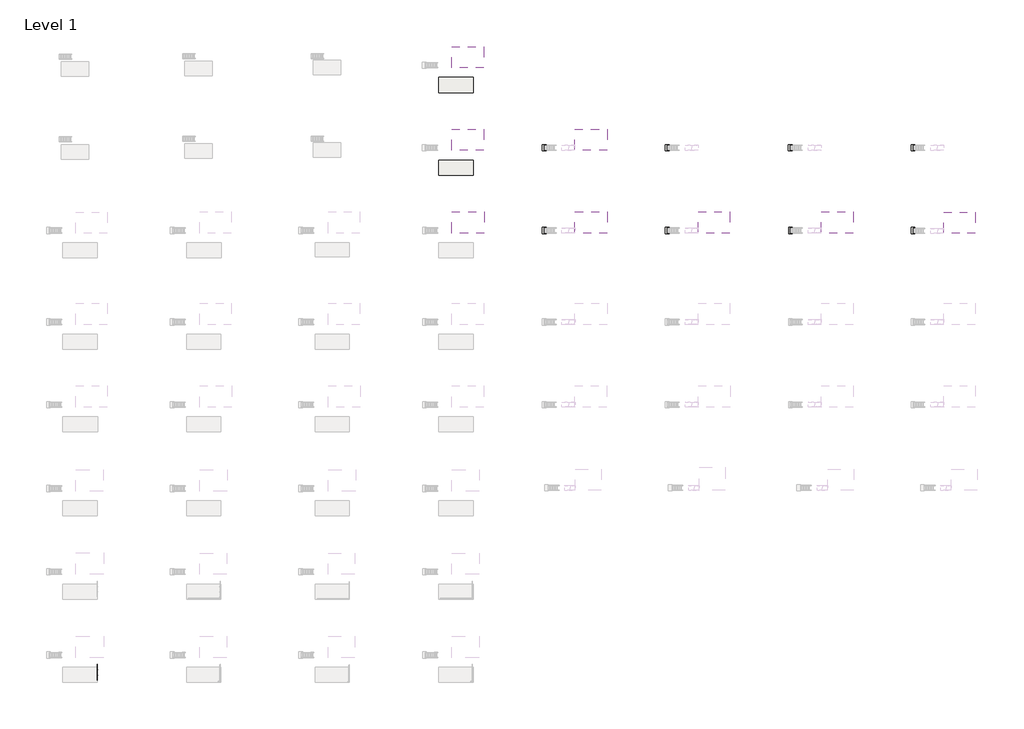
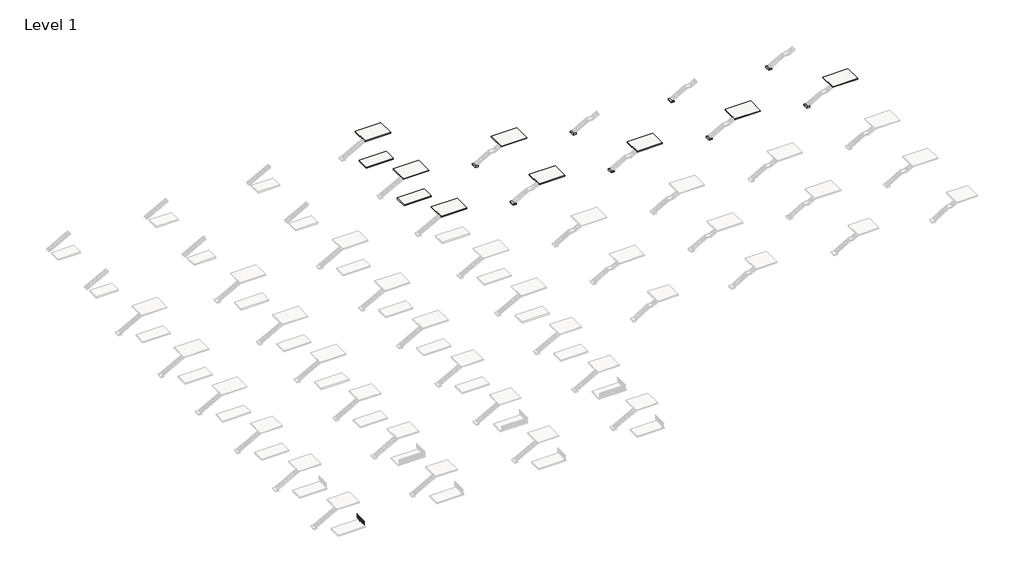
# One storey, part 2 of 21: 18 slabs, 1 railing.
"""IFC4 building model written with IfcOpenShell, lengths in millimetres."""

from ifc_helpers import new_model, si_unit, point, frame, frame_2d, origin, place, context, project, spatial, polyline, circle_curve, ellipse_curve, trimmed, segment, composite_curve, outline, extrude, element, save
from ifc_brep_helpers import plane_surface, cylinder_surface, revolved_surface, advanced_brep

model = new_model("IFC4")

# Units and contexts
model_context = context("Model", 3, world=origin())
ifc_project = project(units=[si_unit("LENGTHUNIT", "METRE", prefix="MILLI")], contexts=[model_context])

# Site, building, storey
site = spatial("IfcSite", under=ifc_project)
building = spatial("IfcBuilding", under=site)
storey = spatial("IfcBuildingStorey", under=building, Name="Level 1", Elevation=0.0)

# Railing
placement = place(None, origin())
element("IfcRailing", 1, ObjectType="VIVA-CIRCA-Multiline-Cable-Fascia Mount-Straight", at=placement, inside=storey, context=model_context, shape_type="SolidModel", body=[
    advanced_brep(
    [(-4853.4752117, -73330.710467, 1054.1), (-4904.2752117, -73330.710467, 1054.1), (-4853.4752117, -70282.710467, 1054.1), (-4904.2752117, -70282.710467, 1054.1), (-4853.4752117, -70181.110467, 1054.1), (-4904.2752117, -70181.110467, 1054.1)],
    [
        (0, 1, circle_curve(frame((-4878.8752117, -73330.710467, 1054.1), z_axis=(0.0, -1.0, 0.0), x_axis=(-1.0, 0.0, 0.0)), 25.4)),
        (1, 0, circle_curve(frame((-4878.8752117, -73330.710467, 1054.1), z_axis=(0.0, -1.0, 0.0), x_axis=(-1.0, 0.0, 0.0)), 25.4)),
        (0, 2),
        (2, 3, circle_curve(frame((-4878.8752117, -70282.710467, 1054.1), z_axis=(0.0, -1.0, 0.0), x_axis=(-1.0, 0.0, 0.0)), 25.4)),
        (3, 1),
        (3, 2, circle_curve(frame((-4878.8752117, -70282.710467, 1054.1), z_axis=(0.0, -1.0, 0.0), x_axis=(-1.0, 0.0, 0.0)), 25.4)),
        (4, 5, circle_curve(frame((-4878.8752117, -70181.110467, 1054.1), z_axis=(0.0, 1.0, 0.0), x_axis=(-1.0, 0.0, 0.0)), 25.4)),
        (5, 4, circle_curve(frame((-4878.8752117, -70181.110467, 1054.1), z_axis=(0.0, 1.0, 0.0), x_axis=(-1.0, 0.0, 0.0)), 25.4)),
        (2, 4),
        (5, 3),
    ],
    [
        plane_surface(frame((-4878.8752117, -73330.710467, 1079.5), z_axis=(0.0, -1.0, 0.0), x_axis=(0.0, 0.0, 1.0))),
        cylinder_surface(frame((-4878.8752117, -73330.710467, 1054.1), z_axis=(0.0, -1.0, 0.0), x_axis=(-1.0, 0.0, 0.0)), 25.4),
        plane_surface(frame((-4878.8752117, -70181.110467, 1079.5), z_axis=(0.0, 1.0, 0.0), x_axis=(0.0, 0.0, 1.0))),
        cylinder_surface(frame((-4878.8752117, -70282.710467, 1054.1), z_axis=(0.0, -1.0, 0.0), x_axis=(-1.0, 0.0, 0.0)), 25.4),
    ],
    [
        (0, [[1, 2]]),
        (1, [[-1, 3, 4, 5]]),
        (1, [[-2, -5, 6, -3]]),
        (2, [[7, 8]]),
        (3, [[-4, 9, -8, 10]]),
        (3, [[-6, -10, -7, -9]]),
    ],
),
    extrude(outline(composite_curve([segment(trimmed(circle_curve(frame_2d((924.7124, -4916.9752117)), 2.3876), [point((924.7124, -4919.3628117))], [point((924.7124, -4914.5876117))], False, "CARTESIAN"), True, "CONTINUOUS"), segment(trimmed(circle_curve(frame_2d((924.7124, -4916.9752117)), 2.3876), [point((924.7124, -4914.5876117))], [point((924.7124, -4919.3628117))], False, "CARTESIAN"), True, "CONTINUOUS")], self_intersect=False)), frame((0.0, -73330.710467, 0.0), z_axis=(0.0, 1.0, 0.0), x_axis=(0.0, 0.0, 1.0)), (0.0, 0.0, 1.0), 3048.0),
    extrude(outline(composite_curve([segment(trimmed(circle_curve(frame_2d((829.4624, -4916.9752117)), 2.3876), [point((829.4624, -4919.3628117))], [point((829.4624, -4914.5876117))], False, "CARTESIAN"), True, "CONTINUOUS"), segment(trimmed(circle_curve(frame_2d((829.4624, -4916.9752117)), 2.3876), [point((829.4624, -4914.5876117))], [point((829.4624, -4919.3628117))], False, "CARTESIAN"), True, "CONTINUOUS")], self_intersect=False)), frame((0.0, -73330.710467, 0.0), z_axis=(0.0, 1.0, 0.0), x_axis=(0.0, 0.0, 1.0)), (0.0, 0.0, 1.0), 3048.0),
    extrude(outline(composite_curve([segment(trimmed(circle_curve(frame_2d((734.2124, -4916.9752117)), 2.3876), [point((734.2124, -4919.3628117))], [point((734.2124, -4914.5876117))], False, "CARTESIAN"), True, "CONTINUOUS"), segment(trimmed(circle_curve(frame_2d((734.2124, -4916.9752117)), 2.3876), [point((734.2124, -4914.5876117))], [point((734.2124, -4919.3628117))], False, "CARTESIAN"), True, "CONTINUOUS")], self_intersect=False)), frame((0.0, -73330.710467, 0.0), z_axis=(0.0, 1.0, 0.0), x_axis=(0.0, 0.0, 1.0)), (0.0, 0.0, 1.0), 3048.0),
    extrude(outline(composite_curve([segment(trimmed(circle_curve(frame_2d((638.9624, -4916.9752117)), 2.3876), [point((638.9624, -4919.3628117))], [point((638.9624, -4914.5876117))], False, "CARTESIAN"), True, "CONTINUOUS"), segment(trimmed(circle_curve(frame_2d((638.9624, -4916.9752117)), 2.3876), [point((638.9624, -4914.5876117))], [point((638.9624, -4919.3628117))], False, "CARTESIAN"), True, "CONTINUOUS")], self_intersect=False)), frame((0.0, -73330.710467, 0.0), z_axis=(0.0, 1.0, 0.0), x_axis=(0.0, 0.0, 1.0)), (0.0, 0.0, 1.0), 3048.0),
    extrude(outline(composite_curve([segment(trimmed(circle_curve(frame_2d((543.7124, -4916.9752117)), 2.3876), [point((543.7124, -4919.3628117))], [point((543.7124, -4914.5876117))], False, "CARTESIAN"), True, "CONTINUOUS"), segment(trimmed(circle_curve(frame_2d((543.7124, -4916.9752117)), 2.3876), [point((543.7124, -4914.5876117))], [point((543.7124, -4919.3628117))], False, "CARTESIAN"), True, "CONTINUOUS")], self_intersect=False)), frame((0.0, -73330.710467, 0.0), z_axis=(0.0, 1.0, 0.0), x_axis=(0.0, 0.0, 1.0)), (0.0, 0.0, 1.0), 3048.0),
    extrude(outline(composite_curve([segment(trimmed(circle_curve(frame_2d((448.4624, -4916.9752117)), 2.3876), [point((448.4624, -4919.3628117))], [point((448.4624, -4914.5876117))], False, "CARTESIAN"), True, "CONTINUOUS"), segment(trimmed(circle_curve(frame_2d((448.4624, -4916.9752117)), 2.3876), [point((448.4624, -4914.5876117))], [point((448.4624, -4919.3628117))], False, "CARTESIAN"), True, "CONTINUOUS")], self_intersect=False)), frame((0.0, -73330.710467, 0.0), z_axis=(0.0, 1.0, 0.0), x_axis=(0.0, 0.0, 1.0)), (0.0, 0.0, 1.0), 3048.0),
    extrude(outline(composite_curve([segment(trimmed(circle_curve(frame_2d((365.9124, -4916.9752117)), 2.3876), [point((365.9124, -4919.3628117))], [point((365.9124, -4914.5876117))], False, "CARTESIAN"), True, "CONTINUOUS"), segment(trimmed(circle_curve(frame_2d((365.9124, -4916.9752117)), 2.3876), [point((365.9124, -4914.5876117))], [point((365.9124, -4919.3628117))], False, "CARTESIAN"), True, "CONTINUOUS")], self_intersect=False)), frame((0.0, -73330.710467, 0.0), z_axis=(0.0, 1.0, 0.0), x_axis=(0.0, 0.0, 1.0)), (0.0, 0.0, 1.0), 3048.0),
    extrude(outline(composite_curve([segment(trimmed(circle_curve(frame_2d((270.6624, -4916.9752117)), 2.3876), [point((270.6624, -4919.3628117))], [point((270.6624, -4914.5876117))], False, "CARTESIAN"), True, "CONTINUOUS"), segment(trimmed(circle_curve(frame_2d((270.6624, -4916.9752117)), 2.3876), [point((270.6624, -4914.5876117))], [point((270.6624, -4919.3628117))], False, "CARTESIAN"), True, "CONTINUOUS")], self_intersect=False)), frame((0.0, -73330.710467, 0.0), z_axis=(0.0, 1.0, 0.0), x_axis=(0.0, 0.0, 1.0)), (0.0, 0.0, 1.0), 3048.0),
    extrude(outline(composite_curve([segment(trimmed(circle_curve(frame_2d((175.4124, -4916.9752117)), 2.3876), [point((175.4124, -4919.3628117))], [point((175.4124, -4914.5876117))], False, "CARTESIAN"), True, "CONTINUOUS"), segment(trimmed(circle_curve(frame_2d((175.4124, -4916.9752117)), 2.3876), [point((175.4124, -4914.5876117))], [point((175.4124, -4919.3628117))], False, "CARTESIAN"), True, "CONTINUOUS")], self_intersect=False)), frame((0.0, -73330.710467, 0.0), z_axis=(0.0, 1.0, 0.0), x_axis=(0.0, 0.0, 1.0)), (0.0, 0.0, 1.0), 3048.0),
    extrude(outline(composite_curve([segment(trimmed(circle_curve(frame_2d((80.1624, -4916.9752117)), 2.3876), [point((80.1624, -4919.3628117))], [point((80.1624, -4914.5876117))], False, "CARTESIAN"), True, "CONTINUOUS"), segment(trimmed(circle_curve(frame_2d((80.1624, -4916.9752117)), 2.3876), [point((80.1624, -4914.5876117))], [point((80.1624, -4919.3628117))], False, "CARTESIAN"), True, "CONTINUOUS")], self_intersect=False)), frame((0.0, -73330.710467, 0.0), z_axis=(0.0, 1.0, 0.0), x_axis=(0.0, 0.0, 1.0)), (0.0, 0.0, 1.0), 3048.0),
    extrude(outline(composite_curve([segment(trimmed(circle_curve(frame_2d((-71297.916717, 76.2)), 12.666458), [point((-71285.2502591, 76.2))], [point((-71310.583175, 76.2))], False, "CARTESIAN"), True, "CONTINUOUS"), segment(trimmed(circle_curve(frame_2d((-71297.916717, 76.2)), 12.666458), [point((-71310.583175, 76.2))], [point((-71285.2502591, 76.2))], False, "CARTESIAN"), True, "CONTINUOUS")], self_intersect=False)), frame((-4929.6752117, 0.0, 0.0), z_axis=(1.0, 0.0, 0.0), x_axis=(0.0, 1.0, 0.0)), (0.0, 0.0, 1.0), 50.8),
    extrude(outline(composite_curve([segment(trimmed(circle_curve(frame_2d((-71297.916717, 170.0388889)), 12.666458), [point((-71285.2502591, 170.0388889))], [point((-71310.583175, 170.0388889))], False, "CARTESIAN"), True, "CONTINUOUS"), segment(trimmed(circle_curve(frame_2d((-71297.916717, 170.0388889)), 12.666458), [point((-71310.583175, 170.0388889))], [point((-71285.2502591, 170.0388889))], False, "CARTESIAN"), True, "CONTINUOUS")], self_intersect=False)), frame((-4929.6752117, 0.0, 0.0), z_axis=(1.0, 0.0, 0.0), x_axis=(0.0, 1.0, 0.0)), (0.0, 0.0, 1.0), 50.8),
    extrude(outline(composite_curve([segment(trimmed(circle_curve(frame_2d((-71297.916717, 263.8777778)), 12.666458), [point((-71285.2502591, 263.8777778))], [point((-71310.583175, 263.8777778))], False, "CARTESIAN"), True, "CONTINUOUS"), segment(trimmed(circle_curve(frame_2d((-71297.916717, 263.8777778)), 12.666458), [point((-71310.583175, 263.8777778))], [point((-71285.2502591, 263.8777778))], False, "CARTESIAN"), True, "CONTINUOUS")], self_intersect=False)), frame((-4929.6752117, 0.0, 0.0), z_axis=(1.0, 0.0, 0.0), x_axis=(0.0, 1.0, 0.0)), (0.0, 0.0, 1.0), 50.8),
    extrude(outline(composite_curve([segment(trimmed(circle_curve(frame_2d((-71297.916717, 357.7166667)), 12.666458), [point((-71285.2502591, 357.7166667))], [point((-71310.583175, 357.7166667))], False, "CARTESIAN"), True, "CONTINUOUS"), segment(trimmed(circle_curve(frame_2d((-71297.916717, 357.7166667)), 12.666458), [point((-71310.583175, 357.7166667))], [point((-71285.2502591, 357.7166667))], False, "CARTESIAN"), True, "CONTINUOUS")], self_intersect=False)), frame((-4929.6752117, 0.0, 0.0), z_axis=(1.0, 0.0, 0.0), x_axis=(0.0, 1.0, 0.0)), (0.0, 0.0, 1.0), 50.8),
    extrude(outline(composite_curve([segment(trimmed(circle_curve(frame_2d((-71297.916717, 451.5555556)), 12.666458), [point((-71285.2502591, 451.5555556))], [point((-71310.583175, 451.5555556))], False, "CARTESIAN"), True, "CONTINUOUS"), segment(trimmed(circle_curve(frame_2d((-71297.916717, 451.5555556)), 12.666458), [point((-71310.583175, 451.5555556))], [point((-71285.2502591, 451.5555556))], False, "CARTESIAN"), True, "CONTINUOUS")], self_intersect=False)), frame((-4929.6752117, 0.0, 0.0), z_axis=(1.0, 0.0, 0.0), x_axis=(0.0, 1.0, 0.0)), (0.0, 0.0, 1.0), 50.8),
    extrude(outline(composite_curve([segment(trimmed(circle_curve(frame_2d((-71297.916717, 545.3944444)), 12.666458), [point((-71285.2502591, 545.3944444))], [point((-71310.583175, 545.3944444))], False, "CARTESIAN"), True, "CONTINUOUS"), segment(trimmed(circle_curve(frame_2d((-71297.916717, 545.3944444)), 12.666458), [point((-71310.583175, 545.3944444))], [point((-71285.2502591, 545.3944444))], False, "CARTESIAN"), True, "CONTINUOUS")], self_intersect=False)), frame((-4929.6752117, 0.0, 0.0), z_axis=(1.0, 0.0, 0.0), x_axis=(0.0, 1.0, 0.0)), (0.0, 0.0, 1.0), 50.8),
    extrude(outline(composite_curve([segment(trimmed(circle_curve(frame_2d((-71297.916717, 639.2333333)), 12.666458), [point((-71285.2502591, 639.2333333))], [point((-71310.583175, 639.2333333))], False, "CARTESIAN"), True, "CONTINUOUS"), segment(trimmed(circle_curve(frame_2d((-71297.916717, 639.2333333)), 12.666458), [point((-71310.583175, 639.2333333))], [point((-71285.2502591, 639.2333333))], False, "CARTESIAN"), True, "CONTINUOUS")], self_intersect=False)), frame((-4929.6752117, 0.0, 0.0), z_axis=(1.0, 0.0, 0.0), x_axis=(0.0, 1.0, 0.0)), (0.0, 0.0, 1.0), 50.8),
    extrude(outline(composite_curve([segment(trimmed(circle_curve(frame_2d((-71297.916717, 733.0722222)), 12.666458), [point((-71285.2502591, 733.0722222))], [point((-71310.583175, 733.0722222))], False, "CARTESIAN"), True, "CONTINUOUS"), segment(trimmed(circle_curve(frame_2d((-71297.916717, 733.0722222)), 12.666458), [point((-71310.583175, 733.0722222))], [point((-71285.2502591, 733.0722222))], False, "CARTESIAN"), True, "CONTINUOUS")], self_intersect=False)), frame((-4929.6752117, 0.0, 0.0), z_axis=(1.0, 0.0, 0.0), x_axis=(0.0, 1.0, 0.0)), (0.0, 0.0, 1.0), 50.8),
    extrude(outline(composite_curve([segment(trimmed(circle_curve(frame_2d((-71297.916717, 920.75)), 12.666458), [point((-71285.2502591, 920.75))], [point((-71310.583175, 920.75))], False, "CARTESIAN"), True, "CONTINUOUS"), segment(trimmed(circle_curve(frame_2d((-71297.916717, 920.75)), 12.666458), [point((-71310.583175, 920.75))], [point((-71285.2502591, 920.75))], False, "CARTESIAN"), True, "CONTINUOUS")], self_intersect=False)), frame((-4929.6752117, 0.0, 0.0), z_axis=(1.0, 0.0, 0.0), x_axis=(0.0, 1.0, 0.0)), (0.0, 0.0, 1.0), 50.8),
    extrude(outline(composite_curve([segment(trimmed(circle_curve(frame_2d((-71297.916717, 826.9111111)), 12.666458), [point((-71285.2502591, 826.9111111))], [point((-71310.583175, 826.9111111))], False, "CARTESIAN"), True, "CONTINUOUS"), segment(trimmed(circle_curve(frame_2d((-71297.916717, 826.9111111)), 12.666458), [point((-71310.583175, 826.9111111))], [point((-71285.2502591, 826.9111111))], False, "CARTESIAN"), True, "CONTINUOUS")], self_intersect=False)), frame((-4929.6752117, 0.0, 0.0), z_axis=(1.0, 0.0, 0.0), x_axis=(0.0, 1.0, 0.0)), (0.0, 0.0, 1.0), 50.8),
    extrude(outline(composite_curve([segment(trimmed(circle_curve(frame_2d((1055.4254922, -4878.9719401)), 25.4345159), [point((1033.3106679, -4866.4081372))], [point((1033.2157471, -4891.3671739))], True, "CARTESIAN"), True, "CONTINUOUS"), segment(trimmed(circle_curve(frame_2d((1030.7132623, -4892.611827)), 2.7949225), [point((1033.2157471, -4891.3671739))], [point((1028.3406769, -4894.089132))], False, "CARTESIAN"), True, "CONTINUOUS"), segment(trimmed(circle_curve(frame_2d((1056.1881188, -4878.838477)), 31.75), [point((1028.3406769, -4894.089132))], [point((1028.9214354, -4862.5722398))], False, "CARTESIAN"), True, "CONTINUOUS"), segment(trimmed(circle_curve(frame_2d((1030.7923545, -4864.8605795)), 2.9558141), [point((1028.9214354, -4862.5722398))], [point((1033.3106679, -4866.4081372))], False, "CARTESIAN"), True, "CONTINUOUS")], self_intersect=False)), frame((0.0, -71343.550992, 0.0), z_axis=(0.0, 1.0, 0.0), x_axis=(0.0, 0.0, 1.0)), (0.0, 0.0, 1.0), 90.4748),
    extrude(outline(composite_curve([segment(trimmed(circle_curve(frame_2d((-71271.2456772, 1010.282776)), 14.3679149), [point((-71271.2456772, 1024.6506908))], [point((-71285.613592, 1010.282776))], True, "CARTESIAN"), True, "CONTINUOUS"), segment(trimmed(circle_curve(frame_2d((-71298.313592, 1010.282776)), 12.7), [point((-71285.613592, 1010.282776))], [point((-71311.013592, 1010.282776))], False, "CARTESIAN"), True, "CONTINUOUS"), segment(trimmed(circle_curve(frame_2d((-71325.3815069, 1010.282776)), 14.3679149), [point((-71311.013592, 1010.282776))], [point((-71325.3815069, 1024.6506908))], True, "CARTESIAN"), True, "CONTINUOUS"), segment(polyline([(-71325.3815069, 1024.6506908), (-71271.2456772, 1024.6506908)]), True, "CONTINUOUS")], self_intersect=False)), frame((-4881.4152117, 0.0, 0.0), z_axis=(1.0, 0.0, 0.0), x_axis=(0.0, 1.0, 0.0)), (0.0, 0.0, 1.0), 5.08),
    extrude(outline(polyline([(-4933.3882474, -71234.813592), (-4923.4060474, -71234.813592), (-4923.4060474, -71361.813592), (-4933.3882474, -71361.813592), (-4933.3882474, -71234.813592)])), frame((0.0, 0.0, -209.55), z_axis=(0.0, 0.0, 1.0), x_axis=(1.0, 0.0, 0.0)), (0.0, 0.0, 1.0), 152.4),
    extrude(outline(composite_curve([segment(polyline([(-4923.4060474, -71330.063592), (-4923.4060474, -71266.563592), (-4869.6790302, -71266.563592)]), True, "CONTINUOUS"), segment(trimmed(circle_curve(frame_2d((-4878.8752117, -71298.313592)), 33.0549883), [point((-4869.6790302, -71266.563592))], [point((-4869.6790302, -71330.063592))], False, "CARTESIAN"), True, "CONTINUOUS"), segment(polyline([(-4869.6790302, -71330.063592), (-4923.4060474, -71330.063592)]), True, "CONTINUOUS")], self_intersect=False)), frame((0.0, 0.0, -182.5625), z_axis=(0.0, 0.0, 1.0), x_axis=(1.0, 0.0, 0.0)), (0.0, 0.0, 1.0), 9.525),
    extrude(outline(composite_curve([segment(polyline([(-4923.4060474, -71330.063592), (-4923.4060474, -71266.563592), (-4869.6790302, -71266.563592)]), True, "CONTINUOUS"), segment(trimmed(circle_curve(frame_2d((-4878.8752117, -71298.313592)), 33.0549883), [point((-4869.6790302, -71266.563592))], [point((-4869.6790302, -71330.063592))], False, "CARTESIAN"), True, "CONTINUOUS"), segment(polyline([(-4869.6790302, -71330.063592), (-4923.4060474, -71330.063592)]), True, "CONTINUOUS")], self_intersect=False)), frame((0.0, 0.0, -93.6625), z_axis=(0.0, 0.0, 1.0), x_axis=(1.0, 0.0, 0.0)), (0.0, 0.0, 1.0), 9.525),
    extrude(outline(composite_curve([segment(trimmed(circle_curve(frame_2d((-71237.353592, -59.69)), 2.54), [point((-71237.353592, -57.15))], [point((-71234.813592, -59.69))], False, "CARTESIAN"), True, "CONTINUOUS"), segment(polyline([(-71234.813592, -59.69), (-71234.813592, -207.01)]), True, "CONTINUOUS"), segment(trimmed(circle_curve(frame_2d((-71237.353592, -207.01)), 2.54), [point((-71234.813592, -207.01))], [point((-71237.353592, -209.55))], False, "CARTESIAN"), True, "CONTINUOUS"), segment(polyline([(-71237.353592, -209.55), (-71359.273592, -209.55)]), True, "CONTINUOUS"), segment(trimmed(circle_curve(frame_2d((-71359.273592, -207.01)), 2.54), [point((-71359.273592, -209.55))], [point((-71361.813592, -207.01))], False, "CARTESIAN"), True, "CONTINUOUS"), segment(polyline([(-71361.813592, -207.01), (-71361.813592, -59.69)]), True, "CONTINUOUS"), segment(trimmed(circle_curve(frame_2d((-71359.273592, -59.69)), 2.54), [point((-71361.813592, -59.69))], [point((-71359.273592, -57.15))], False, "CARTESIAN"), True, "CONTINUOUS"), segment(polyline([(-71359.273592, -57.15), (-71237.353592, -57.15)]), True, "CONTINUOUS")], self_intersect=False), holes=[composite_curve([segment(trimmed(circle_curve(frame_2d((-71342.763592, -76.2)), 5.55625), [point((-71337.207342, -76.2))], [point((-71348.319842, -76.2))], True, "CARTESIAN"), True, "CONTINUOUS"), segment(trimmed(circle_curve(frame_2d((-71342.763592, -76.2)), 5.55625), [point((-71348.319842, -76.2))], [point((-71337.207342, -76.2))], True, "CARTESIAN"), True, "CONTINUOUS")], self_intersect=False), composite_curve([segment(trimmed(circle_curve(frame_2d((-71253.863592, -76.2)), 5.55625), [point((-71248.307342, -76.2))], [point((-71259.419842, -76.2))], True, "CARTESIAN"), True, "CONTINUOUS"), segment(trimmed(circle_curve(frame_2d((-71253.863592, -76.2)), 5.55625), [point((-71259.419842, -76.2))], [point((-71248.307342, -76.2))], True, "CARTESIAN"), True, "CONTINUOUS")], self_intersect=False), composite_curve([segment(trimmed(circle_curve(frame_2d((-71253.863592, -190.5)), 5.55625), [point((-71248.307342, -190.5))], [point((-71259.419842, -190.5))], True, "CARTESIAN"), True, "CONTINUOUS"), segment(trimmed(circle_curve(frame_2d((-71253.863592, -190.5)), 5.55625), [point((-71259.419842, -190.5))], [point((-71248.307342, -190.5))], True, "CARTESIAN"), True, "CONTINUOUS")], self_intersect=False), composite_curve([segment(trimmed(circle_curve(frame_2d((-71342.763592, -190.5)), 5.55625), [point((-71337.207342, -190.5))], [point((-71348.319842, -190.5))], True, "CARTESIAN"), True, "CONTINUOUS"), segment(trimmed(circle_curve(frame_2d((-71342.763592, -190.5)), 5.55625), [point((-71348.319842, -190.5))], [point((-71337.207342, -190.5))], True, "CARTESIAN"), True, "CONTINUOUS")], self_intersect=False)]), frame((-4923.4060474, 0.0, 0.0), z_axis=(1.0, 0.0, 0.0), x_axis=(0.0, 1.0, 0.0)), (0.0, 0.0, 1.0), 9.9822),
    advanced_brep(
    [(-4853.4758139, -71298.313592, 941.1347854), (-4904.2746095, -71298.313592, 941.1347854), (-4904.2746095, -71298.313592, -173.0502), (-4853.4758139, -71298.313592, -173.0502), (-4866.1372432, -71298.313592, 979.3486202), (-4891.6131803, -71298.313592, 979.3486202), (-4866.1372432, -71298.313592, 1008.5779599), (-4891.6131803, -71298.313592, 1008.5779599), (-4878.8752117, -71298.313592, 1015.238668), (-4878.8752117, -71298.313592, -173.0502)],
    [
        (0, 1, circle_curve(frame((-4878.8752117, -71298.313592, 941.1347854), z_axis=(0.0, 0.0, -1.0), x_axis=(-1.0, 0.0, 0.0)), 25.3993978)),
        (1, 2),
        (2, 3, circle_curve(frame((-4878.8752117, -71298.313592, -173.0502), z_axis=(0.0, 0.0, 1.0), x_axis=(-1.0, 0.0, 0.0)), 25.3993978)),
        (3, 0),
        (1, 0, circle_curve(frame((-4878.8752117, -71298.313592, 941.1347854), z_axis=(0.0, 0.0, -1.0), x_axis=(-1.0, 0.0, 0.0)), 25.3993978)),
        (3, 2, circle_curve(frame((-4878.8752117, -71298.313592, -173.0502), z_axis=(0.0, 0.0, 1.0), x_axis=(-1.0, 0.0, 0.0)), 25.3993978)),
        (4, 5, circle_curve(frame((-4878.8752117, -71298.313592, 979.3486202), z_axis=(0.0, 0.0, -1.0), x_axis=(-1.0, 0.0, 0.0)), 12.7379685)),
        (5, 1, circle_curve(frame((-4955.6110486, -71298.313592, 979.3486202), z_axis=(0.0, 1.0, 0.0), x_axis=(-1.0, 0.0, 0.0)), 63.9978683)),
        (0, 4, circle_curve(frame((-4802.1393749, -71298.313592, 979.3486202), z_axis=(0.0, 1.0, 0.0), x_axis=(1.0, 0.0, 0.0)), 63.9978683)),
        (5, 4, circle_curve(frame((-4878.8752117, -71298.313592, 979.3486202), z_axis=(0.0, 0.0, -1.0), x_axis=(-1.0, 0.0, 0.0)), 12.7379685)),
        (6, 7, circle_curve(frame((-4878.8752117, -71298.313592, 1008.5779599), z_axis=(0.0, 0.0, -1.0), x_axis=(-1.0, 0.0, 0.0)), 12.7379685)),
        (7, 5),
        (4, 6),
        (7, 6, circle_curve(frame((-4878.8752117, -71298.313592, 1008.5779599), z_axis=(0.0, 0.0, -1.0), x_axis=(-1.0, 0.0, 0.0)), 12.7379685)),
        (8, 7, circle_curve(frame((-4878.8752117, -71298.313592, 999.7282394), z_axis=(0.0, -1.0, 0.0), x_axis=(-1.0, 0.0, 0.0)), 15.5104286)),
        (6, 8, circle_curve(frame((-4878.8752117, -71298.313592, 999.7282394), z_axis=(0.0, -1.0, 0.0), x_axis=(1.0, 0.0, 0.0)), 15.5104286)),
        (2, 9),
        (9, 3),
    ],
    [
        cylinder_surface(frame((-4878.8752117, -71298.313592, 1104.9), z_axis=(0.0, 0.0, 1.0), x_axis=(-1.0, 0.0, 0.0)), 25.3993978),
        revolved_surface(trimmed(ellipse_curve(frame((-4955.6110486, -71298.313592, 979.3486202), z_axis=(0.0, -1.0, 0.0), x_axis=(-1.0, 0.0, 0.0)), 63.9978683, 63.9978683), [point((-4904.2746095, -71298.313592, 941.1347854))], [point((-4891.6131803, -71298.313592, 979.3486202))], True, "CARTESIAN"), (-4878.8752117, -71298.313592, 1104.9), (0.0, 0.0, 1.0)),
        cylinder_surface(frame((-4878.8752117, -71298.313592, 1104.9), z_axis=(0.0, 0.0, 1.0), x_axis=(-1.0, 0.0, 0.0)), 12.7379685),
        revolved_surface(trimmed(ellipse_curve(frame((-4878.8752117, -71298.313592, 999.7282394), z_axis=(0.0, 1.0, 0.0), x_axis=(-1.0, 0.0, 0.0)), 15.5104286, 15.5104286), [point((-4891.6131803, -71298.313592, 1008.5779599))], [point((-4878.8752117, -71298.313592, 1015.238668))], True, "CARTESIAN"), (-4878.8752117, -71298.313592, 1104.9), (0.0, 0.0, 1.0)),
        plane_surface(frame((-4878.8752117, -71298.313592, -173.0502), z_axis=(0.0, 0.0, -1.0), x_axis=(-1.0, 0.0, 0.0))),
    ],
    [
        (0, [[1, 2, 3, 4]]),
        (0, [[5, -4, 6, -2]]),
        (1, [[7, 8, -1, 9]]),
        (1, [[10, -9, -5, -8]]),
        (2, [[11, 12, -7, 13]]),
        (2, [[14, -13, -10, -12]]),
        (3, [[15, -11, 16]]),
        (3, [[-16, -14, -15]]),
        (4, [[-3, 17, 18]]),
        (4, [[-6, -18, -17]]),
    ],
),
    extrude(outline(composite_curve([segment(trimmed(circle_curve(frame_2d((-72313.916717, 76.2)), 12.666458), [point((-72301.2502591, 76.2))], [point((-72326.583175, 76.2))], False, "CARTESIAN"), True, "CONTINUOUS"), segment(trimmed(circle_curve(frame_2d((-72313.916717, 76.2)), 12.666458), [point((-72326.583175, 76.2))], [point((-72301.2502591, 76.2))], False, "CARTESIAN"), True, "CONTINUOUS")], self_intersect=False)), frame((-4929.6752117, 0.0, 0.0), z_axis=(1.0, 0.0, 0.0), x_axis=(0.0, 1.0, 0.0)), (0.0, 0.0, 1.0), 50.8),
    extrude(outline(composite_curve([segment(trimmed(circle_curve(frame_2d((-72313.916717, 170.0388889)), 12.666458), [point((-72301.2502591, 170.0388889))], [point((-72326.583175, 170.0388889))], False, "CARTESIAN"), True, "CONTINUOUS"), segment(trimmed(circle_curve(frame_2d((-72313.916717, 170.0388889)), 12.666458), [point((-72326.583175, 170.0388889))], [point((-72301.2502591, 170.0388889))], False, "CARTESIAN"), True, "CONTINUOUS")], self_intersect=False)), frame((-4929.6752117, 0.0, 0.0), z_axis=(1.0, 0.0, 0.0), x_axis=(0.0, 1.0, 0.0)), (0.0, 0.0, 1.0), 50.8),
    extrude(outline(composite_curve([segment(trimmed(circle_curve(frame_2d((-72313.916717, 263.8777778)), 12.666458), [point((-72301.2502591, 263.8777778))], [point((-72326.583175, 263.8777778))], False, "CARTESIAN"), True, "CONTINUOUS"), segment(trimmed(circle_curve(frame_2d((-72313.916717, 263.8777778)), 12.666458), [point((-72326.583175, 263.8777778))], [point((-72301.2502591, 263.8777778))], False, "CARTESIAN"), True, "CONTINUOUS")], self_intersect=False)), frame((-4929.6752117, 0.0, 0.0), z_axis=(1.0, 0.0, 0.0), x_axis=(0.0, 1.0, 0.0)), (0.0, 0.0, 1.0), 50.8),
    extrude(outline(composite_curve([segment(trimmed(circle_curve(frame_2d((-72313.916717, 357.7166667)), 12.666458), [point((-72301.2502591, 357.7166667))], [point((-72326.583175, 357.7166667))], False, "CARTESIAN"), True, "CONTINUOUS"), segment(trimmed(circle_curve(frame_2d((-72313.916717, 357.7166667)), 12.666458), [point((-72326.583175, 357.7166667))], [point((-72301.2502591, 357.7166667))], False, "CARTESIAN"), True, "CONTINUOUS")], self_intersect=False)), frame((-4929.6752117, 0.0, 0.0), z_axis=(1.0, 0.0, 0.0), x_axis=(0.0, 1.0, 0.0)), (0.0, 0.0, 1.0), 50.8),
    extrude(outline(composite_curve([segment(trimmed(circle_curve(frame_2d((-72313.916717, 451.5555556)), 12.666458), [point((-72301.2502591, 451.5555556))], [point((-72326.583175, 451.5555556))], False, "CARTESIAN"), True, "CONTINUOUS"), segment(trimmed(circle_curve(frame_2d((-72313.916717, 451.5555556)), 12.666458), [point((-72326.583175, 451.5555556))], [point((-72301.2502591, 451.5555556))], False, "CARTESIAN"), True, "CONTINUOUS")], self_intersect=False)), frame((-4929.6752117, 0.0, 0.0), z_axis=(1.0, 0.0, 0.0), x_axis=(0.0, 1.0, 0.0)), (0.0, 0.0, 1.0), 50.8),
    extrude(outline(composite_curve([segment(trimmed(circle_curve(frame_2d((-72313.916717, 545.3944444)), 12.666458), [point((-72301.2502591, 545.3944444))], [point((-72326.583175, 545.3944444))], False, "CARTESIAN"), True, "CONTINUOUS"), segment(trimmed(circle_curve(frame_2d((-72313.916717, 545.3944444)), 12.666458), [point((-72326.583175, 545.3944444))], [point((-72301.2502591, 545.3944444))], False, "CARTESIAN"), True, "CONTINUOUS")], self_intersect=False)), frame((-4929.6752117, 0.0, 0.0), z_axis=(1.0, 0.0, 0.0), x_axis=(0.0, 1.0, 0.0)), (0.0, 0.0, 1.0), 50.8),
    extrude(outline(composite_curve([segment(trimmed(circle_curve(frame_2d((-72313.916717, 639.2333333)), 12.666458), [point((-72301.2502591, 639.2333333))], [point((-72326.583175, 639.2333333))], False, "CARTESIAN"), True, "CONTINUOUS"), segment(trimmed(circle_curve(frame_2d((-72313.916717, 639.2333333)), 12.666458), [point((-72326.583175, 639.2333333))], [point((-72301.2502591, 639.2333333))], False, "CARTESIAN"), True, "CONTINUOUS")], self_intersect=False)), frame((-4929.6752117, 0.0, 0.0), z_axis=(1.0, 0.0, 0.0), x_axis=(0.0, 1.0, 0.0)), (0.0, 0.0, 1.0), 50.8),
    extrude(outline(composite_curve([segment(trimmed(circle_curve(frame_2d((-72313.916717, 733.0722222)), 12.666458), [point((-72301.2502591, 733.0722222))], [point((-72326.583175, 733.0722222))], False, "CARTESIAN"), True, "CONTINUOUS"), segment(trimmed(circle_curve(frame_2d((-72313.916717, 733.0722222)), 12.666458), [point((-72326.583175, 733.0722222))], [point((-72301.2502591, 733.0722222))], False, "CARTESIAN"), True, "CONTINUOUS")], self_intersect=False)), frame((-4929.6752117, 0.0, 0.0), z_axis=(1.0, 0.0, 0.0), x_axis=(0.0, 1.0, 0.0)), (0.0, 0.0, 1.0), 50.8),
    extrude(outline(composite_curve([segment(trimmed(circle_curve(frame_2d((-72313.916717, 920.75)), 12.666458), [point((-72301.2502591, 920.75))], [point((-72326.583175, 920.75))], False, "CARTESIAN"), True, "CONTINUOUS"), segment(trimmed(circle_curve(frame_2d((-72313.916717, 920.75)), 12.666458), [point((-72326.583175, 920.75))], [point((-72301.2502591, 920.75))], False, "CARTESIAN"), True, "CONTINUOUS")], self_intersect=False)), frame((-4929.6752117, 0.0, 0.0), z_axis=(1.0, 0.0, 0.0), x_axis=(0.0, 1.0, 0.0)), (0.0, 0.0, 1.0), 50.8),
    extrude(outline(composite_curve([segment(trimmed(circle_curve(frame_2d((-72313.916717, 826.9111111)), 12.666458), [point((-72301.2502591, 826.9111111))], [point((-72326.583175, 826.9111111))], False, "CARTESIAN"), True, "CONTINUOUS"), segment(trimmed(circle_curve(frame_2d((-72313.916717, 826.9111111)), 12.666458), [point((-72326.583175, 826.9111111))], [point((-72301.2502591, 826.9111111))], False, "CARTESIAN"), True, "CONTINUOUS")], self_intersect=False)), frame((-4929.6752117, 0.0, 0.0), z_axis=(1.0, 0.0, 0.0), x_axis=(0.0, 1.0, 0.0)), (0.0, 0.0, 1.0), 50.8),
    extrude(outline(composite_curve([segment(trimmed(circle_curve(frame_2d((1055.4254922, -4878.9719401)), 25.4345159), [point((1033.3106679, -4866.4081372))], [point((1033.2157471, -4891.3671739))], True, "CARTESIAN"), True, "CONTINUOUS"), segment(trimmed(circle_curve(frame_2d((1030.7132623, -4892.611827)), 2.7949225), [point((1033.2157471, -4891.3671739))], [point((1028.3406769, -4894.089132))], False, "CARTESIAN"), True, "CONTINUOUS"), segment(trimmed(circle_curve(frame_2d((1056.1881188, -4878.838477)), 31.75), [point((1028.3406769, -4894.089132))], [point((1028.9214354, -4862.5722398))], False, "CARTESIAN"), True, "CONTINUOUS"), segment(trimmed(circle_curve(frame_2d((1030.7923545, -4864.8605795)), 2.9558141), [point((1028.9214354, -4862.5722398))], [point((1033.3106679, -4866.4081372))], False, "CARTESIAN"), True, "CONTINUOUS")], self_intersect=False)), frame((0.0, -72359.550992, 0.0), z_axis=(0.0, 1.0, 0.0), x_axis=(0.0, 0.0, 1.0)), (0.0, 0.0, 1.0), 90.4748),
    extrude(outline(composite_curve([segment(trimmed(circle_curve(frame_2d((-72287.2456772, 1010.282776)), 14.3679149), [point((-72287.2456772, 1024.6506908))], [point((-72301.613592, 1010.282776))], True, "CARTESIAN"), True, "CONTINUOUS"), segment(trimmed(circle_curve(frame_2d((-72314.313592, 1010.282776)), 12.7), [point((-72301.613592, 1010.282776))], [point((-72327.013592, 1010.282776))], False, "CARTESIAN"), True, "CONTINUOUS"), segment(trimmed(circle_curve(frame_2d((-72341.3815069, 1010.282776)), 14.3679149), [point((-72327.013592, 1010.282776))], [point((-72341.3815069, 1024.6506908))], True, "CARTESIAN"), True, "CONTINUOUS"), segment(polyline([(-72341.3815069, 1024.6506908), (-72287.2456772, 1024.6506908)]), True, "CONTINUOUS")], self_intersect=False)), frame((-4881.4152117, 0.0, 0.0), z_axis=(1.0, 0.0, 0.0), x_axis=(0.0, 1.0, 0.0)), (0.0, 0.0, 1.0), 5.08),
    extrude(outline(polyline([(-4933.3882474, -72250.813592), (-4923.4060474, -72250.813592), (-4923.4060474, -72377.813592), (-4933.3882474, -72377.813592), (-4933.3882474, -72250.813592)])), frame((0.0, 0.0, -209.55), z_axis=(0.0, 0.0, 1.0), x_axis=(1.0, 0.0, 0.0)), (0.0, 0.0, 1.0), 152.4),
    extrude(outline(composite_curve([segment(polyline([(-4923.4060474, -72346.063592), (-4923.4060474, -72282.563592), (-4869.6790302, -72282.563592)]), True, "CONTINUOUS"), segment(trimmed(circle_curve(frame_2d((-4878.8752117, -72314.313592)), 33.0549883), [point((-4869.6790302, -72282.563592))], [point((-4869.6790302, -72346.063592))], False, "CARTESIAN"), True, "CONTINUOUS"), segment(polyline([(-4869.6790302, -72346.063592), (-4923.4060474, -72346.063592)]), True, "CONTINUOUS")], self_intersect=False)), frame((0.0, 0.0, -182.5625), z_axis=(0.0, 0.0, 1.0), x_axis=(1.0, 0.0, 0.0)), (0.0, 0.0, 1.0), 9.525),
    extrude(outline(composite_curve([segment(polyline([(-4923.4060474, -72346.063592), (-4923.4060474, -72282.563592), (-4869.6790302, -72282.563592)]), True, "CONTINUOUS"), segment(trimmed(circle_curve(frame_2d((-4878.8752117, -72314.313592)), 33.0549883), [point((-4869.6790302, -72282.563592))], [point((-4869.6790302, -72346.063592))], False, "CARTESIAN"), True, "CONTINUOUS"), segment(polyline([(-4869.6790302, -72346.063592), (-4923.4060474, -72346.063592)]), True, "CONTINUOUS")], self_intersect=False)), frame((0.0, 0.0, -93.6625), z_axis=(0.0, 0.0, 1.0), x_axis=(1.0, 0.0, 0.0)), (0.0, 0.0, 1.0), 9.525),
    extrude(outline(composite_curve([segment(trimmed(circle_curve(frame_2d((-72253.353592, -59.69)), 2.54), [point((-72253.353592, -57.15))], [point((-72250.813592, -59.69))], False, "CARTESIAN"), True, "CONTINUOUS"), segment(polyline([(-72250.813592, -59.69), (-72250.813592, -207.01)]), True, "CONTINUOUS"), segment(trimmed(circle_curve(frame_2d((-72253.353592, -207.01)), 2.54), [point((-72250.813592, -207.01))], [point((-72253.353592, -209.55))], False, "CARTESIAN"), True, "CONTINUOUS"), segment(polyline([(-72253.353592, -209.55), (-72375.273592, -209.55)]), True, "CONTINUOUS"), segment(trimmed(circle_curve(frame_2d((-72375.273592, -207.01)), 2.54), [point((-72375.273592, -209.55))], [point((-72377.813592, -207.01))], False, "CARTESIAN"), True, "CONTINUOUS"), segment(polyline([(-72377.813592, -207.01), (-72377.813592, -59.69)]), True, "CONTINUOUS"), segment(trimmed(circle_curve(frame_2d((-72375.273592, -59.69)), 2.54), [point((-72377.813592, -59.69))], [point((-72375.273592, -57.15))], False, "CARTESIAN"), True, "CONTINUOUS"), segment(polyline([(-72375.273592, -57.15), (-72253.353592, -57.15)]), True, "CONTINUOUS")], self_intersect=False), holes=[composite_curve([segment(trimmed(circle_curve(frame_2d((-72358.763592, -76.2)), 5.55625), [point((-72353.207342, -76.2))], [point((-72364.319842, -76.2))], True, "CARTESIAN"), True, "CONTINUOUS"), segment(trimmed(circle_curve(frame_2d((-72358.763592, -76.2)), 5.55625), [point((-72364.319842, -76.2))], [point((-72353.207342, -76.2))], True, "CARTESIAN"), True, "CONTINUOUS")], self_intersect=False), composite_curve([segment(trimmed(circle_curve(frame_2d((-72269.863592, -76.2)), 5.55625), [point((-72264.307342, -76.2))], [point((-72275.419842, -76.2))], True, "CARTESIAN"), True, "CONTINUOUS"), segment(trimmed(circle_curve(frame_2d((-72269.863592, -76.2)), 5.55625), [point((-72275.419842, -76.2))], [point((-72264.307342, -76.2))], True, "CARTESIAN"), True, "CONTINUOUS")], self_intersect=False), composite_curve([segment(trimmed(circle_curve(frame_2d((-72269.863592, -190.5)), 5.55625), [point((-72264.307342, -190.5))], [point((-72275.419842, -190.5))], True, "CARTESIAN"), True, "CONTINUOUS"), segment(trimmed(circle_curve(frame_2d((-72269.863592, -190.5)), 5.55625), [point((-72275.419842, -190.5))], [point((-72264.307342, -190.5))], True, "CARTESIAN"), True, "CONTINUOUS")], self_intersect=False), composite_curve([segment(trimmed(circle_curve(frame_2d((-72358.763592, -190.5)), 5.55625), [point((-72353.207342, -190.5))], [point((-72364.319842, -190.5))], True, "CARTESIAN"), True, "CONTINUOUS"), segment(trimmed(circle_curve(frame_2d((-72358.763592, -190.5)), 5.55625), [point((-72364.319842, -190.5))], [point((-72353.207342, -190.5))], True, "CARTESIAN"), True, "CONTINUOUS")], self_intersect=False)]), frame((-4923.4060474, 0.0, 0.0), z_axis=(1.0, 0.0, 0.0), x_axis=(0.0, 1.0, 0.0)), (0.0, 0.0, 1.0), 9.9822),
    advanced_brep(
    [(-4853.4758139, -72314.313592, 941.1347854), (-4904.2746095, -72314.313592, 941.1347854), (-4904.2746095, -72314.313592, -173.0502), (-4853.4758139, -72314.313592, -173.0502), (-4866.1372432, -72314.313592, 979.3486202), (-4891.6131803, -72314.313592, 979.3486202), (-4866.1372432, -72314.313592, 1008.5779599), (-4891.6131803, -72314.313592, 1008.5779599), (-4878.8752117, -72314.313592, 1015.238668), (-4878.8752117, -72314.313592, -173.0502)],
    [
        (0, 1, circle_curve(frame((-4878.8752117, -72314.313592, 941.1347854), z_axis=(0.0, 0.0, -1.0), x_axis=(-1.0, 0.0, 0.0)), 25.3993978)),
        (1, 2),
        (2, 3, circle_curve(frame((-4878.8752117, -72314.313592, -173.0502), z_axis=(0.0, 0.0, 1.0), x_axis=(-1.0, 0.0, 0.0)), 25.3993978)),
        (3, 0),
        (1, 0, circle_curve(frame((-4878.8752117, -72314.313592, 941.1347854), z_axis=(0.0, 0.0, -1.0), x_axis=(-1.0, 0.0, 0.0)), 25.3993978)),
        (3, 2, circle_curve(frame((-4878.8752117, -72314.313592, -173.0502), z_axis=(0.0, 0.0, 1.0), x_axis=(-1.0, 0.0, 0.0)), 25.3993978)),
        (4, 5, circle_curve(frame((-4878.8752117, -72314.313592, 979.3486202), z_axis=(0.0, 0.0, -1.0), x_axis=(-1.0, 0.0, 0.0)), 12.7379685)),
        (5, 1, circle_curve(frame((-4955.6110486, -72314.313592, 979.3486202), z_axis=(0.0, 1.0, 0.0), x_axis=(-1.0, 0.0, 0.0)), 63.9978683)),
        (0, 4, circle_curve(frame((-4802.1393749, -72314.313592, 979.3486202), z_axis=(0.0, 1.0, 0.0), x_axis=(1.0, 0.0, 0.0)), 63.9978683)),
        (5, 4, circle_curve(frame((-4878.8752117, -72314.313592, 979.3486202), z_axis=(0.0, 0.0, -1.0), x_axis=(-1.0, 0.0, 0.0)), 12.7379685)),
        (6, 7, circle_curve(frame((-4878.8752117, -72314.313592, 1008.5779599), z_axis=(0.0, 0.0, -1.0), x_axis=(-1.0, 0.0, 0.0)), 12.7379685)),
        (7, 5),
        (4, 6),
        (7, 6, circle_curve(frame((-4878.8752117, -72314.313592, 1008.5779599), z_axis=(0.0, 0.0, -1.0), x_axis=(-1.0, 0.0, 0.0)), 12.7379685)),
        (8, 7, circle_curve(frame((-4878.8752117, -72314.313592, 999.7282394), z_axis=(0.0, -1.0, 0.0), x_axis=(-1.0, 0.0, 0.0)), 15.5104286)),
        (6, 8, circle_curve(frame((-4878.8752117, -72314.313592, 999.7282394), z_axis=(0.0, -1.0, 0.0), x_axis=(1.0, 0.0, 0.0)), 15.5104286)),
        (2, 9),
        (9, 3),
    ],
    [
        cylinder_surface(frame((-4878.8752117, -72314.313592, 1104.9), z_axis=(0.0, 0.0, 1.0), x_axis=(-1.0, 0.0, 0.0)), 25.3993978),
        revolved_surface(trimmed(ellipse_curve(frame((-4955.6110486, -72314.313592, 979.3486202), z_axis=(0.0, -1.0, 0.0), x_axis=(-1.0, 0.0, 0.0)), 63.9978683, 63.9978683), [point((-4904.2746095, -72314.313592, 941.1347854))], [point((-4891.6131803, -72314.313592, 979.3486202))], True, "CARTESIAN"), (-4878.8752117, -72314.313592, 1104.9), (0.0, 0.0, 1.0)),
        cylinder_surface(frame((-4878.8752117, -72314.313592, 1104.9), z_axis=(0.0, 0.0, 1.0), x_axis=(-1.0, 0.0, 0.0)), 12.7379685),
        revolved_surface(trimmed(ellipse_curve(frame((-4878.8752117, -72314.313592, 999.7282394), z_axis=(0.0, 1.0, 0.0), x_axis=(-1.0, 0.0, 0.0)), 15.5104286, 15.5104286), [point((-4891.6131803, -72314.313592, 1008.5779599))], [point((-4878.8752117, -72314.313592, 1015.238668))], True, "CARTESIAN"), (-4878.8752117, -72314.313592, 1104.9), (0.0, 0.0, 1.0)),
        plane_surface(frame((-4878.8752117, -72314.313592, -173.0502), z_axis=(0.0, 0.0, -1.0), x_axis=(-1.0, 0.0, 0.0))),
    ],
    [
        (0, [[1, 2, 3, 4]]),
        (0, [[5, -4, 6, -2]]),
        (1, [[7, 8, -1, 9]]),
        (1, [[10, -9, -5, -8]]),
        (2, [[11, 12, -7, 13]]),
        (2, [[14, -13, -10, -12]]),
        (3, [[15, -11, 16]]),
        (3, [[-16, -14, -15]]),
        (4, [[-3, 17, 18]]),
        (4, [[-6, -18, -17]]),
    ],
),
])

# Slabs
element("IfcSlab", 2, ObjectType="Generic", at=placement, inside=storey, context=model_context, shape_type="SweptSolid", body=[
    extrude(outline(polyline([(72270.0310647, 15795.2395941), (65793.0310647, 15795.2395941), (65793.0310647, 20018.7009998), (72270.0310647, 20018.7009998), (72270.0310647, 15795.2395941)])), frame((0.0, 0.0, 2818.13), z_axis=(0.0, 0.0, 1.0), x_axis=(1.0, 0.0, 0.0)), (0.0, 0.0, 1.0), 229.87),
])
element("IfcSlab", 3, ObjectType="Generic", at=placement, inside=storey, context=model_context, shape_type="SweptSolid", body=[
    extrude(outline(polyline([(72184.0027721, 32281.4812523), (65783.2027721, 32281.4812523), (65783.2027721, 36504.942658), (72184.0027721, 36504.942658), (72184.0027721, 32281.4812523)])), frame((0.0, 0.0, 2818.13), z_axis=(0.0, 0.0, 1.0), x_axis=(1.0, 0.0, 0.0)), (0.0, 0.0, 1.0), 229.87),
])
element("IfcSlab", 4, ObjectType="Generic", at=placement, inside=storey, context=model_context, shape_type="SweptSolid", body=[
    extrude(outline(polyline([(72184.0027721, 48749.3946767), (65783.2027721, 48749.3946767), (65783.2027721, 52972.8560824), (72184.0027721, 52972.8560824), (72184.0027721, 48749.3946767)])), frame((0.0, 0.0, 2818.13), z_axis=(0.0, 0.0, 1.0), x_axis=(1.0, 0.0, 0.0)), (0.0, 0.0, 1.0), 229.87),
])
element("IfcSlab", 5, ObjectType="Generic", at=placement, inside=storey, context=model_context, shape_type="SweptSolid", body=[
    extrude(outline(polyline([(96820.0048368, 15795.2395941), (90343.0048368, 15795.2395941), (90343.0048368, 20018.7009998), (96820.0048368, 20018.7009998), (96820.0048368, 15795.2395941)])), frame((0.0, 0.0, 2818.13), z_axis=(0.0, 0.0, 1.0), x_axis=(1.0, 0.0, 0.0)), (0.0, 0.0, 1.0), 229.87),
])
element("IfcSlab", 6, ObjectType="Generic", at=placement, inside=storey, context=model_context, shape_type="SweptSolid", body=[
    extrude(outline(polyline([(96733.9765442, 32281.4812523), (90333.1765442, 32281.4812523), (90333.1765442, 36504.942658), (96733.9765442, 36504.942658), (96733.9765442, 32281.4812523)])), frame((0.0, 0.0, 2818.13), z_axis=(0.0, 0.0, 1.0), x_axis=(1.0, 0.0, 0.0)), (0.0, 0.0, 1.0), 229.87),
])
element("IfcSlab", 7, ObjectType="Generic", at=placement, inside=storey, context=model_context, shape_type="SweptSolid", body=[
    extrude(outline(polyline([(121225.5167033, 15795.2395941), (114892.9786089, 15795.2395941), (114892.9786089, 20018.7009998), (121225.5167033, 20018.7009998), (121225.5167033, 15795.2395941)])), frame((0.0, 0.0, 2818.13), z_axis=(0.0, 0.0, 1.0), x_axis=(1.0, 0.0, 0.0)), (0.0, 0.0, 1.0), 229.87),
])
element("IfcSlab", 8, ObjectType="Generic", at=placement, inside=storey, context=model_context, shape_type="SweptSolid", body=[
    extrude(outline(polyline([(145767.5523809, 15795.2395941), (139442.9523809, 15795.2395941), (139442.9523809, 20018.7009998), (145767.5523809, 20018.7009998), (145767.5523809, 15795.2395941)])), frame((0.0, 0.0, 2818.13), z_axis=(0.0, 0.0, 1.0), x_axis=(1.0, 0.0, 0.0)), (0.0, 0.0, 1.0), 229.87),
])
element("IfcSlab", 9, ObjectType="Generic", at=placement, inside=storey, context=model_context, shape_type="SweptSolid", body=[
    extrude(outline(polyline([(170144.8509011, 15795.2395941), (163888.8311068, 15795.2395941), (163888.8311068, 19986.2395941), (170144.8509011, 19986.2395941), (170144.8509011, 15795.2395941)])), frame((0.0, 0.0, 2818.13), z_axis=(0.0, 0.0, 1.0), x_axis=(1.0, 0.0, 0.0)), (0.0, 0.0, 1.0), 229.87),
])
element("IfcSlab", 10, ObjectType="Generic - 7 3/4\"", at=placement, inside=storey, context=model_context, shape_type="SweptSolid", body=[
    extrude(outline(polyline([(70013.9310041, 27341.4903969), (63206.7310041, 27341.4903969), (63206.7310041, 30338.6903969), (70013.9310041, 30338.6903969), (70013.9310041, 27341.4903969)])), frame((0.0, 0.0, -296.7736), z_axis=(0.0, 0.0, 1.0), x_axis=(1.0, 0.0, 0.0)), (0.0, 0.0, 1.0), 296.7736),
])
element("IfcSlab", 11, ObjectType="Generic - 7 3/4\"", at=placement, inside=storey, context=model_context, shape_type="SweptSolid", body=[
    extrude(outline(polyline([(70013.9310041, 43809.4038213), (63206.7310041, 43809.4038213), (63206.7310041, 46806.6038213), (70013.9310041, 46806.6038213), (70013.9310041, 43809.4038213)])), frame((0.0, 0.0, -296.7736), z_axis=(0.0, 0.0, 1.0), x_axis=(1.0, 0.0, 0.0)), (0.0, 0.0, 1.0), 296.7736),
])
element("IfcSlab", 12, ObjectType="Generic - 7 3/4\"", at=placement, inside=storey, context=model_context, shape_type="SweptSolid", body=[
    extrude(outline(polyline([(84564.9052688, 32179.8812523), (83802.9052688, 32179.8812523), (83802.9052688, 33399.0812523), (84564.9052688, 33399.0812523), (84564.9052688, 32179.8812523)])), frame((0.0, 0.0, -296.7736), z_axis=(0.0, 0.0, 1.0), x_axis=(1.0, 0.0, 0.0)), (0.0, 0.0, 1.0), 296.7736),
])
element("IfcSlab", 13, ObjectType="Generic - 7 3/4\"", at=placement, inside=storey, context=model_context, shape_type="SweptSolid", body=[
    extrude(outline(polyline([(109114.8790409, 32179.8812523), (108352.8790409, 32179.8812523), (108352.8790409, 33399.0812523), (109114.8790409, 33399.0812523), (109114.8790409, 32179.8812523)])), frame((0.0, 0.0, -296.7736), z_axis=(0.0, 0.0, 1.0), x_axis=(1.0, 0.0, 0.0)), (0.0, 0.0, 1.0), 296.7736),
])
element("IfcSlab", 14, ObjectType="Generic - 7 3/4\"", at=placement, inside=storey, context=model_context, shape_type="SweptSolid", body=[
    extrude(outline(polyline([(133664.852813, 32179.8812523), (132902.852813, 32179.8812523), (132902.852813, 33399.0812523), (133664.852813, 33399.0812523), (133664.852813, 32179.8812523)])), frame((0.0, 0.0, -296.7736), z_axis=(0.0, 0.0, 1.0), x_axis=(1.0, 0.0, 0.0)), (0.0, 0.0, 1.0), 296.7736),
])
element("IfcSlab", 15, ObjectType="Generic - 7 3/4\"", at=placement, inside=storey, context=model_context, shape_type="SweptSolid", body=[
    extrude(outline(polyline([(158110.7315388, 32171.1678279), (157348.7315388, 32171.1678279), (157348.7315388, 33390.3678279), (158110.7315388, 33390.3678279), (158110.7315388, 32171.1678279)])), frame((0.0, 0.0, -296.7736), z_axis=(0.0, 0.0, 1.0), x_axis=(1.0, 0.0, 0.0)), (0.0, 0.0, 1.0), 296.7736),
])
element("IfcSlab", 16, ObjectType="Generic - 7 3/4\"", at=placement, inside=storey, context=model_context, shape_type="SweptSolid", body=[
    extrude(outline(polyline([(84574.7335615, 15693.6395941), (83812.7335615, 15693.6395941), (83812.7335615, 16912.8395941), (84574.7335615, 16912.8395941), (84574.7335615, 15693.6395941)])), frame((0.0, 0.0, -296.7736), z_axis=(0.0, 0.0, 1.0), x_axis=(1.0, 0.0, 0.0)), (0.0, 0.0, 1.0), 296.7736),
])
element("IfcSlab", 17, ObjectType="Generic - 7 3/4\"", at=placement, inside=storey, context=model_context, shape_type="SweptSolid", body=[
    extrude(outline(polyline([(109124.7073335, 15693.6395941), (108362.7073335, 15693.6395941), (108362.7073335, 16912.8395941), (109124.7073335, 16912.8395941), (109124.7073335, 15693.6395941)])), frame((0.0, 0.0, -296.7736), z_axis=(0.0, 0.0, 1.0), x_axis=(1.0, 0.0, 0.0)), (0.0, 0.0, 1.0), 296.7736),
])
element("IfcSlab", 18, ObjectType="Generic - 7 3/4\"", at=placement, inside=storey, context=model_context, shape_type="SweptSolid", body=[
    extrude(outline(polyline([(133674.6811056, 15693.6395941), (132912.6811056, 15693.6395941), (132912.6811056, 16912.8395941), (133674.6811056, 16912.8395941), (133674.6811056, 15693.6395941)])), frame((0.0, 0.0, -296.7736), z_axis=(0.0, 0.0, 1.0), x_axis=(1.0, 0.0, 0.0)), (0.0, 0.0, 1.0), 296.7736),
])
element("IfcSlab", 19, ObjectType="Generic - 7 3/4\"", at=placement, inside=storey, context=model_context, shape_type="SweptSolid", body=[
    extrude(outline(polyline([(158120.5598314, 15693.6395941), (157358.5598314, 15693.6395941), (157358.5598314, 16912.8395941), (158120.5598314, 16912.8395941), (158120.5598314, 15693.6395941)])), frame((0.0, 0.0, -296.7736), z_axis=(0.0, 0.0, 1.0), x_axis=(1.0, 0.0, 0.0)), (0.0, 0.0, 1.0), 296.7736),
])

save(model, "model.ifc")
